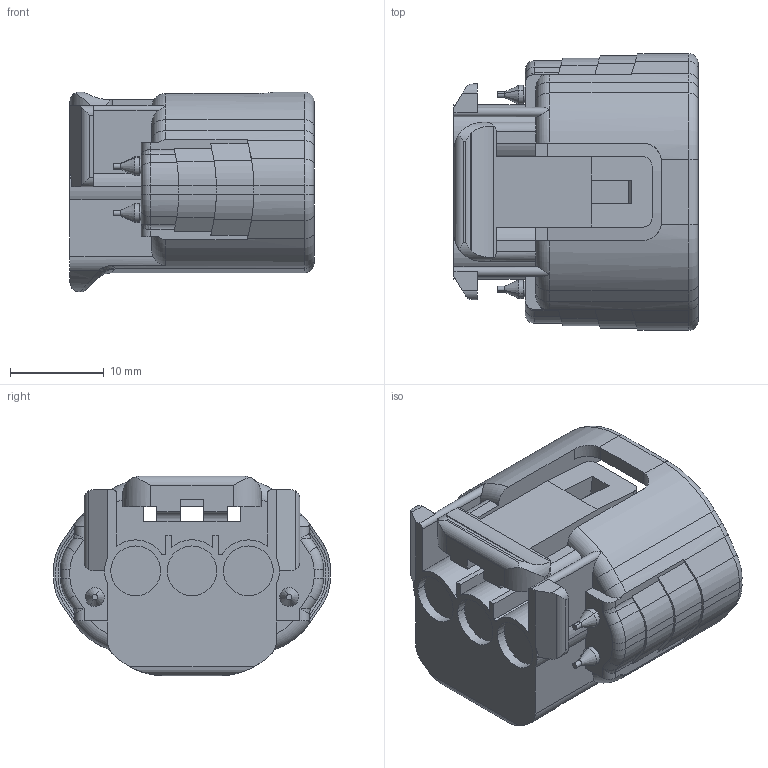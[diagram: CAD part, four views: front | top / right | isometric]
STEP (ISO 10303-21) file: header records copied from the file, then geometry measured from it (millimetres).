
FILE_DESCRIPTION(('CATIA V5 STEP Exchange'),'2;1');
FILE_NAME('N:\C-DAM_MyDesk\ENV\11093U\1設\6189-0443.stp','2013-02-28T03:05:38+00:00',('none'),('none'),'CATIA Version 5 Release 20 SP 4 (IN-10)','CATIA V5 STEP AP203','none');
FILE_SCHEMA(('CONFIG_CONTROL_DESIGN'));
Length unit declared in the file: millimetre
Products named in the file (1): 6189-0443
Bounding box: 26 x 29.5 x 21.3 mm (x, y, z)
Volume: 6612.7 mm3; surface area: 5422.5 mm2
Topology: 1 solids, 1 shells, 334 faces, 900 edges, 570 vertices
Faces by surface type: cylinder 146, plane 140, torus 23, bspline 17, cone 8
Entity records: 10966 total; most frequent: CARTESIAN_POINT 3286, ORIENTED_EDGE 1792, DIRECTION 1213, EDGE_CURVE 896, VERTEX_POINT 570, AXIS2_PLACEMENT_3D 497, VECTOR 468, LINE 468
